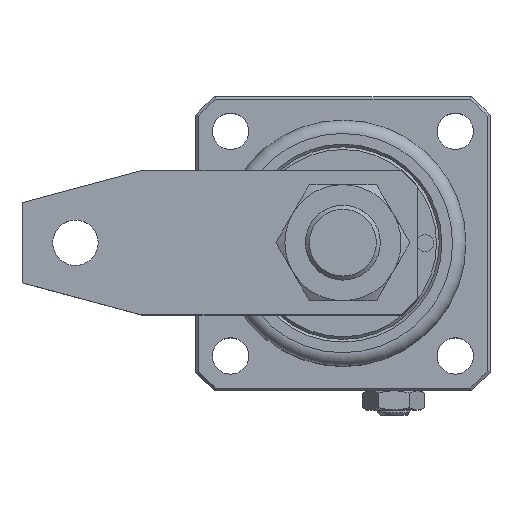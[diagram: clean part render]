
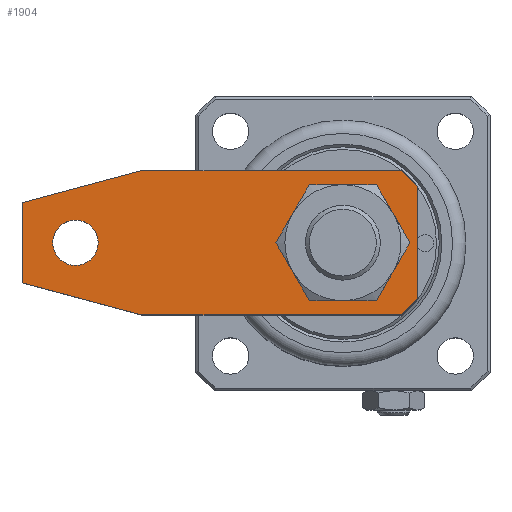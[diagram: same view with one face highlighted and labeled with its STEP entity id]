
A CAD part, top view. The second image highlights one B-rep face of the part: STEP entity #1904.
In plain terms, the highlighted planar face has unit normal (0, 0, 1).
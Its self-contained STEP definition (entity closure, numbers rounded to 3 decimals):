
#249=CIRCLE('',#2465,4.25);
#250=CIRCLE('',#2466,7.5);
#765=ORIENTED_EDGE('',*,*,#1026,.F.);
#766=ORIENTED_EDGE('',*,*,#1027,.F.);
#767=ORIENTED_EDGE('',*,*,#1000,.T.);
#768=ORIENTED_EDGE('',*,*,#1004,.T.);
#769=ORIENTED_EDGE('',*,*,#1007,.T.);
#770=ORIENTED_EDGE('',*,*,#1010,.T.);
#771=ORIENTED_EDGE('',*,*,#1013,.T.);
#772=ORIENTED_EDGE('',*,*,#1016,.T.);
#773=ORIENTED_EDGE('',*,*,#1019,.T.);
#774=ORIENTED_EDGE('',*,*,#1022,.T.);
#1000=EDGE_CURVE('',#1179,#1180,#1245,.T.);
#1004=EDGE_CURVE('',#1180,#1183,#1249,.T.);
#1007=EDGE_CURVE('',#1183,#1185,#1252,.T.);
#1010=EDGE_CURVE('',#1185,#1187,#1255,.T.);
#1013=EDGE_CURVE('',#1187,#1189,#1258,.T.);
#1016=EDGE_CURVE('',#1189,#1191,#1261,.T.);
#1019=EDGE_CURVE('',#1191,#1193,#1264,.T.);
#1022=EDGE_CURVE('',#1193,#1179,#1267,.T.);
#1026=EDGE_CURVE('',#1197,#1197,#249,.T.);
#1027=EDGE_CURVE('',#1198,#1198,#250,.T.);
#1179=VERTEX_POINT('',#3870);
#1180=VERTEX_POINT('',#3871);
#1183=VERTEX_POINT('',#3879);
#1185=VERTEX_POINT('',#3885);
#1187=VERTEX_POINT('',#3891);
#1189=VERTEX_POINT('',#3897);
#1191=VERTEX_POINT('',#3903);
#1193=VERTEX_POINT('',#3909);
#1197=VERTEX_POINT('',#3923);
#1198=VERTEX_POINT('',#3925);
#1245=LINE('',#3869,#1313);
#1249=LINE('',#3878,#1317);
#1252=LINE('',#3884,#1320);
#1255=LINE('',#3890,#1323);
#1258=LINE('',#3896,#1326);
#1261=LINE('',#3902,#1329);
#1264=LINE('',#3908,#1332);
#1267=LINE('',#3914,#1335);
#1313=VECTOR('',#2904,1000.);
#1317=VECTOR('',#2910,1000.);
#1320=VECTOR('',#2915,1000.);
#1323=VECTOR('',#2920,1000.);
#1326=VECTOR('',#2925,1000.);
#1329=VECTOR('',#2930,1000.);
#1332=VECTOR('',#2935,1000.);
#1335=VECTOR('',#2940,1000.);
#1518=EDGE_LOOP('',(#765));
#1519=EDGE_LOOP('',(#766));
#1520=EDGE_LOOP('',(#767,#768,#769,#770,#771,#772,#773,#774));
#1710=FACE_BOUND('',#1518,.T.);
#1711=FACE_BOUND('',#1519,.T.);
#1712=FACE_BOUND('',#1520,.T.);
#1776=PLANE('',#2464);
#1904=ADVANCED_FACE('',(#1710,#1711,#1712),#1776,.F.);
#2464=AXIS2_PLACEMENT_3D('',#3921,#2948,#2949);
#2465=AXIS2_PLACEMENT_3D('',#3922,#2950,#2951);
#2466=AXIS2_PLACEMENT_3D('',#3924,#2952,#2953);
#2904=DIRECTION('',(-0.707,0.707,0.));
#2910=DIRECTION('',(-1.,0.,0.));
#2915=DIRECTION('',(-0.966,-0.259,0.));
#2920=DIRECTION('',(0.,-1.,0.));
#2925=DIRECTION('',(0.966,-0.259,0.));
#2930=DIRECTION('',(1.,0.,0.));
#2935=DIRECTION('',(0.707,0.707,0.));
#2940=DIRECTION('',(0.,1.,0.));
#2948=DIRECTION('',(0.,0.,-1.));
#2949=DIRECTION('',(0.,1.,0.));
#2950=DIRECTION('',(0.,0.,1.));
#2951=DIRECTION('',(1.,0.,0.));
#2952=DIRECTION('',(0.,0.,1.));
#2953=DIRECTION('',(1.,0.,0.));
#3869=CARTESIAN_POINT('',(34.,27.,7.5));
#3870=CARTESIAN_POINT('',(37.,24.,7.5));
#3871=CARTESIAN_POINT('',(34.,27.,7.5));
#3878=CARTESIAN_POINT('',(34.,27.,7.5));
#3879=CARTESIAN_POINT('',(-14.608,27.,7.5));
#3884=CARTESIAN_POINT('',(-37.,21.,7.5));
#3885=CARTESIAN_POINT('',(-37.,21.,7.5));
#3890=CARTESIAN_POINT('',(-37.,21.,7.5));
#3891=CARTESIAN_POINT('',(-37.,6.,7.5));
#3896=CARTESIAN_POINT('',(-37.,6.,7.5));
#3897=CARTESIAN_POINT('',(-14.608,0.,7.5));
#3902=CARTESIAN_POINT('',(-14.608,0.,7.5));
#3903=CARTESIAN_POINT('',(34.,0.,7.5));
#3908=CARTESIAN_POINT('',(34.,0.,7.5));
#3909=CARTESIAN_POINT('',(37.,3.,7.5));
#3914=CARTESIAN_POINT('',(37.,3.,7.5));
#3921=CARTESIAN_POINT('',(0.,0.,7.5));
#3922=CARTESIAN_POINT('',(-27.,13.5,7.5));
#3923=CARTESIAN_POINT('',(-22.75,13.5,7.5));
#3924=CARTESIAN_POINT('',(23.,13.5,7.5));
#3925=CARTESIAN_POINT('',(30.5,13.5,7.5));
